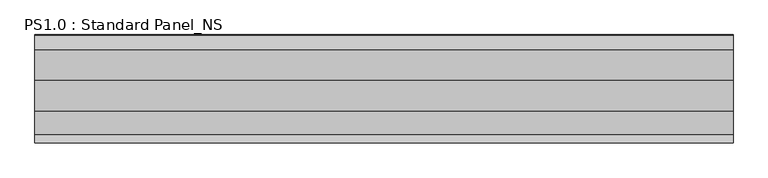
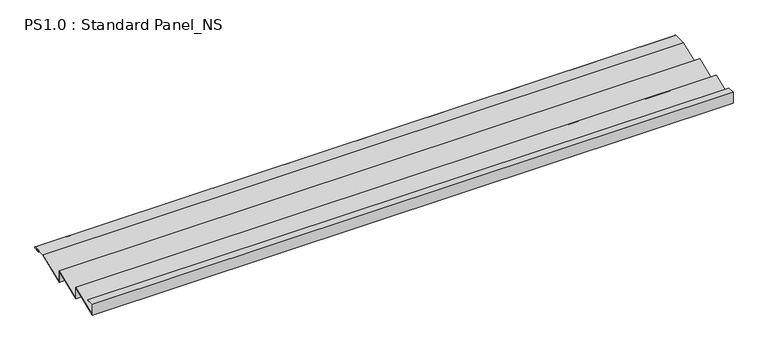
"""IFC4 building model written with IfcOpenShell, lengths in millimetres: proxy geometry, PS1.0 : Standard Panel_NS."""

from ifc_helpers import new_model, si_unit, point, frame, frame_2d, origin, place, context, project, spatial, polyline, circle_curve, trimmed, segment, composite_curve, outline, extrude, source, transform, mapped, element, save


def ps1_0_standard_panel_ns_1c35b6c5(model_context):
    return source(origin(), model_context, "Body", "SweptSolid", [
        extrude(outline(composite_curve([segment(polyline([(0.0, 0.0), (25.0, 0.0), (25.0, -1.0), (1.0, -1.0), (1.0, -36.5171241), (95.0, 1.4828759), (95.0, -36.5171241), (189.0, 1.4828759), (189.0, -36.5171043), (281.8021557, 1.0), (325.0510156, 1.0)]), True, "CONTINUOUS"), segment(trimmed(circle_curve(frame_2d((324.3094696, -0.9153551)), 2.0538928), [point((325.0510156, 1.0))], [point((325.1748462, -2.778041))], False, "CARTESIAN"), True, "CONTINUOUS"), segment(polyline([(325.1748462, -2.778041), (308.7874714, -5.923107), (308.5989911, -4.94103), (324.8448691, -1.8231201)]), True, "CONTINUOUS"), segment(trimmed(circle_curve(frame_2d((324.3094696, -0.9153551)), 1.0538928), [point((324.8448691, -1.8231201))], [point((324.8317866, 0.0))], True, "CARTESIAN"), True, "CONTINUOUS"), segment(polyline([(324.8317866, 0.0), (281.9966446, 0.0), (188.0, -38.0), (188.0, 0.0), (94.0, -38.0), (94.0, 0.0), (0.0, -38.0), (0.0, 0.0)]), True, "CONTINUOUS")], self_intersect=False)), frame((0.0, 0.0, 0.0), z_axis=(1.0, 0.0, 0.0), x_axis=(0.0, 1.0, 0.0)), (0.0, 0.0, 1.0), 2100.0),
    ])


if __name__ == "__main__":
    model = new_model("IFC4")
    model_context = context("Model", 3, world=origin())
    ifc_project = project(units=[si_unit("LENGTHUNIT", "METRE", prefix="MILLI")], contexts=[model_context])
    site = spatial("IfcSite", under=ifc_project)
    building = spatial("IfcBuilding", under=site)
    placement = place(None, origin())
    ps1_0_standard_panel_ns_shape = ps1_0_standard_panel_ns_1c35b6c5(model_context)
    element("IfcBuildingElementProxy", 1, Name="PS1.0 : Standard Panel_NS", ObjectType="PS1.0 : Standard Panel_NS", at=placement, inside=building, context=model_context, shape_type="MappedRepresentation", body=[
        mapped(ps1_0_standard_panel_ns_shape, transform((0.0, 0.0, 0.0), x_axis=(1.0, 0.0, 0.0), y_axis=(0.0, 1.0, 0.0), z_axis=(0.0, 0.0, 1.0))),
    ])
    save(model, "model.ifc")
